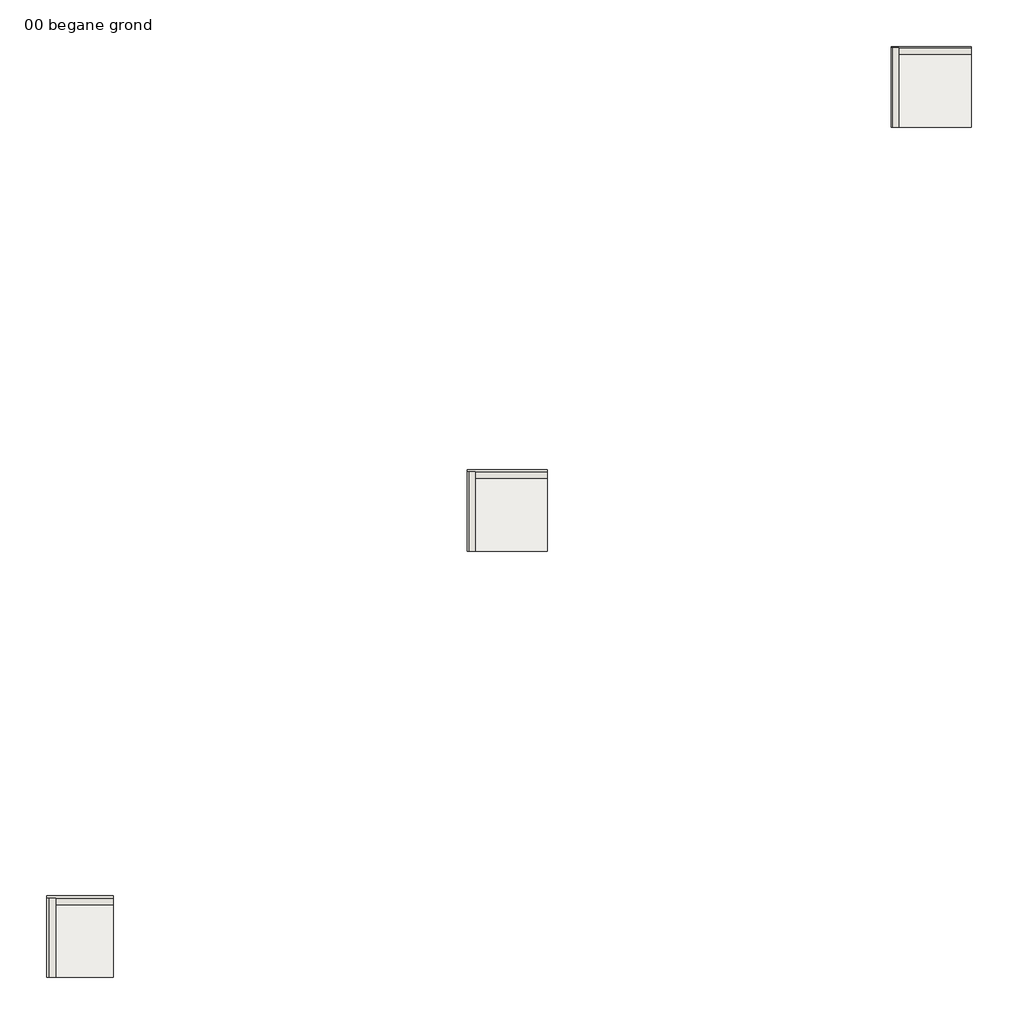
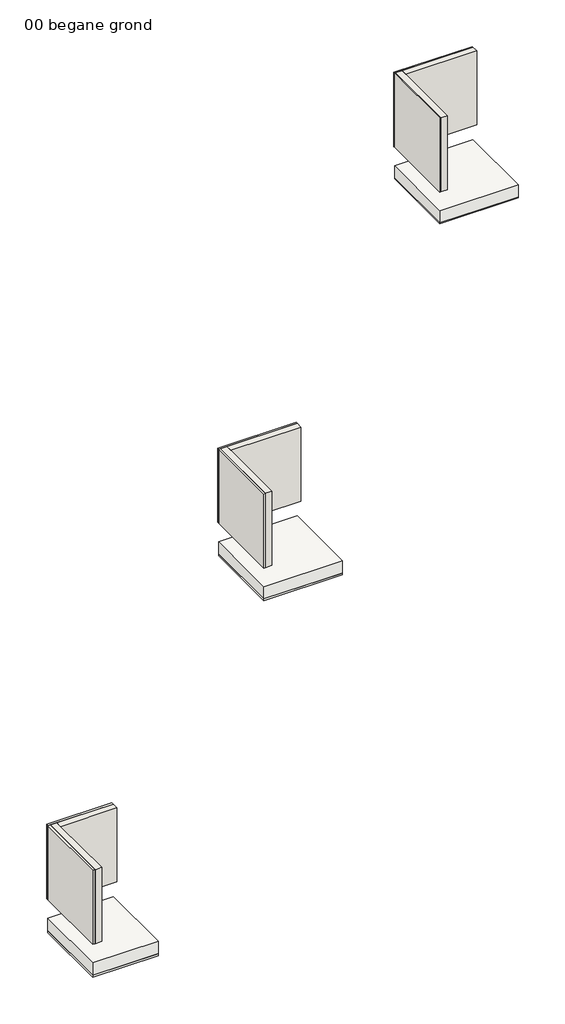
# One storey: 12 walls, 6 slabs.
"""IFC4 building model written with IfcOpenShell, lengths in millimetres."""

import ifcopenshell
import ifcopenshell.guid

model = None  # the IFC model being written
_history = None  # IfcOwnerHistory: only IFC2X3 demands one
_inside = {}  # id of a spatial element -> (the spatial element, [elements in it])
_under = {}  # id of a project, library or spatial element -> (it, [spatial elements below it])
_declared = {}  # id of a project -> (the project, [libraries it declares])
_typed = {}  # id of a type object -> (the type object, [elements of that type])
_made_of = {}  # id of a material, layer set ... -> (it, [elements and type objects made of it])


def new_model(schema):
    """Start an empty IFC model of exactly this schema.

    Asked for "IFC4X3", IfcOpenShell would pick the latest addendum, in which some entities
    have other attributes; the version numbers below select the first issue.
    IFC2X3 requires an IfcOwnerHistory on every rooted entity: one is made here for all.
    """
    global model, _history
    if schema == "IFC4X3":
        model = ifcopenshell.file(schema_version=(4, 3, 0, 0))
    else:
        model = ifcopenshell.file(schema=schema)
    _inside.clear()
    _under.clear()
    _declared.clear()
    _typed.clear()
    _made_of.clear()
    _history = None
    if model.schema == "IFC2X3":
        org = make("IfcOrganization", Name="unknown")
        user = make(
            "IfcPersonAndOrganization",
            ThePerson=make("IfcPerson", FamilyName="unknown"),
            TheOrganization=org,
        )
        app = make(
            "IfcApplication",
            ApplicationDeveloper=org,
            Version="unknown",
            ApplicationFullName="unknown",
            ApplicationIdentifier="unknown",
        )
        _history = make(
            "IfcOwnerHistory",
            OwningUser=user,
            OwningApplication=app,
            ChangeAction="ADDED",
            CreationDate=0,
        )
    return model


def make(cls, **values):
    """One entity of the class cls with the attributes given. An attribute that is None is left unset."""
    return model.create_entity(
        cls, **{name: value for name, value in values.items() if value is not None}
    )


def rooted(cls, **values):
    """An entity with a GlobalId (a new one), such as an element, a storey or a relation."""
    return make(cls, GlobalId=ifcopenshell.guid.new(), OwnerHistory=_history, **values)


def si_unit(unit_type, name, prefix=None):
    """IfcSIUnit, for example si_unit("LENGTHUNIT", "METRE", prefix="MILLI")."""
    return make("IfcSIUnit", UnitType=unit_type, Prefix=prefix, Name=name)


def assignment(units):
    """IfcUnitAssignment: the units of a project."""
    return None if units is None else make("IfcUnitAssignment", Units=units)


def point(xyz):
    """IfcCartesianPoint."""
    return None if xyz is None else make("IfcCartesianPoint", Coordinates=xyz)


def direction(xyz):
    """IfcDirection."""
    return None if xyz is None else make("IfcDirection", DirectionRatios=xyz)


def frame(location, z_axis=None, x_axis=None):
    """IfcAxis2Placement3D, a coordinate frame: its origin and axes. An axis left out is left unset."""
    return make(
        "IfcAxis2Placement3D",
        Location=point(location),
        Axis=direction(z_axis),
        RefDirection=direction(x_axis),
    )


def origin():
    """The frame at (0, 0, 0) with its axes left unset."""
    return frame((0.0, 0.0, 0.0))


def origin_with_axes():
    """The frame at (0, 0, 0) with the z axis (0, 0, 1) and the x axis (1, 0, 0) written out."""
    return frame((0.0, 0.0, 0.0), z_axis=(0.0, 0.0, 1.0), x_axis=(1.0, 0.0, 0.0))


def place(relative_to, where):
    """IfcLocalPlacement: puts the frame where relative to a parent placement (None: the world)."""
    return make(
        "IfcLocalPlacement", PlacementRelTo=relative_to, RelativePlacement=where
    )


def context(
    kind, dimensions, precision=None, world=None, true_north=None, identifier=None
):
    """IfcGeometricRepresentationContext, for example the 3D "Model" context."""
    return make(
        "IfcGeometricRepresentationContext",
        ContextIdentifier=identifier,
        ContextType=kind,
        CoordinateSpaceDimension=dimensions,
        Precision=precision,
        WorldCoordinateSystem=world,
        TrueNorth=true_north,
    )


def project(units=None, contexts=None):
    """IfcProject with its units and contexts."""
    return rooted(
        "IfcProject",
        Name="project",
        RepresentationContexts=contexts,
        UnitsInContext=assignment(units),
    )


def spatial(cls, under=None, at=None, **own):
    """A site, building, storey or space (cls), placed at a placement, below another one or the project."""
    s = rooted(cls, ObjectPlacement=at, **own)
    if under is not None:
        _under.setdefault(under.id(), (under, []))[1].append(s)
    return s


def polyline(points):
    """IfcPolyline through the points."""
    return make("IfcPolyline", Points=[point(p) for p in points])


def outline(outer, holes=None, kind="AREA"):
    """IfcArbitraryClosedProfileDef: a profile drawn as a closed curve; with holes, ...WithVoids."""
    if holes is None:
        return make("IfcArbitraryClosedProfileDef", ProfileType=kind, OuterCurve=outer)
    return make(
        "IfcArbitraryProfileDefWithVoids",
        ProfileType=kind,
        OuterCurve=outer,
        InnerCurves=holes,
    )


def extrude(swept, where, along, depth):
    """IfcExtrudedAreaSolid: the profile swept, set in the frame where, extruded along a direction by depth."""
    return make(
        "IfcExtrudedAreaSolid",
        SweptArea=swept,
        Position=where,
        ExtrudedDirection=direction(along),
        Depth=depth,
    )


def faces_of(points, faces, orient=None, outer=None):
    """IfcFace entities. A face is a list of loops; a loop is a list of indices into points, from 0.

    orient and outer hold one flag for each loop. By default every Orientation is true, the
    first loop of a face is its IfcFaceOuterBound and the others are IfcFaceBound.
    """
    made = []
    for i, loops in enumerate(faces):
        bounds = []
        for j, loop in enumerate(loops):
            is_outer = j == 0 if outer is None else outer[i][j]
            bounds.append(
                make(
                    "IfcFaceOuterBound" if is_outer else "IfcFaceBound",
                    Bound=make("IfcPolyLoop", Polygon=[points[k] for k in loop]),
                    Orientation=True if orient is None else orient[i][j],
                )
            )
        made.append(make("IfcFace", Bounds=bounds))
    return made


def faceted_brep(points, faces, orient=None, outer=None, voids=None):
    """IfcFacetedBrep: a solid bounded by flat faces; with voids (closed shells), ...WithVoids."""
    shared = [point(p) for p in points]
    hull = make("IfcClosedShell", CfsFaces=faces_of(shared, faces, orient, outer))
    if voids is None:
        return make("IfcFacetedBrep", Outer=hull)
    return make(
        "IfcFacetedBrepWithVoids",
        Outer=hull,
        Voids=[
            make(cls, CfsFaces=faces_of(shared, fs, o, b)) for cls, fs, o, b in voids
        ],
    )


def shape(context_of_items, identifier, shape_type, items):
    """IfcShapeRepresentation: the items that make up one representation, for example the "Body"."""
    return make(
        "IfcShapeRepresentation",
        ContextOfItems=context_of_items,
        RepresentationIdentifier=identifier,
        RepresentationType=shape_type,
        Items=items,
    )


def made_of(thing, what):
    """Note that an element or type object is made of a material, layer set ...; save() writes the relation."""
    if what is not None:
        _made_of.setdefault(what.id(), (what, []))[1].append(thing)
    return thing


def element(
    cls,
    number,
    at=None,
    inside=None,
    cuts=None,
    type_object=None,
    material=None,
    context=None,
    identifier="Body",
    shape_type=None,
    held_by="IfcProductDefinitionShape",
    body=None,
    shapes=None,
    **own,
):
    """One element of the class cls, such as IfcWall. Its Tag is "e" and its number.

    at: its placement. inside: the storey or other place that contains it. cuts: it is an
    opening in that element (IfcRelVoidsElement). A single representation is given by context,
    identifier, shape_type and body (its items); several are given by shapes. held_by: the class
    of the entity that holds the representations. save() writes the other relations.
    """
    e = rooted(cls, Tag="e%d" % number, ObjectPlacement=at, **own)
    if body is not None:
        shapes = [shape(context, identifier, shape_type, body)]
    if shapes is not None:
        e.Representation = make(held_by, Representations=shapes)
    if inside is not None:
        _inside.setdefault(inside.id(), (inside, []))[1].append(e)
    if cuts is not None:
        rooted(
            "IfcRelVoidsElement", RelatingBuildingElement=cuts, RelatedOpeningElement=e
        )
    if type_object is not None:
        _typed.setdefault(type_object.id(), (type_object, []))[1].append(e)
    return made_of(e, material)


def aggregate(whole, parts):
    """IfcRelAggregates: a whole, such as a stair, and the parts it consists of."""
    return rooted("IfcRelAggregates", RelatingObject=whole, RelatedObjects=parts)


def save(model, path):
    """Write the relations noted so far, then the file.

    IfcRelAggregates (storeys below a building ...), IfcRelContainedInSpatialStructure (elements
    in a storey), IfcRelDefinesByType, IfcRelAssociatesMaterial and IfcRelDeclares: one each for
    every whole, place, type object, material and project.
    """
    for whole, parts in _under.values():
        aggregate(whole, parts)
    for where, things in _inside.values():
        rooted(
            "IfcRelContainedInSpatialStructure",
            RelatedElements=things,
            RelatingStructure=where,
        )
    for kind, things in _typed.values():
        rooted("IfcRelDefinesByType", RelatedObjects=things, RelatingType=kind)
    for what, things in _made_of.values():
        rooted("IfcRelAssociatesMaterial", RelatedObjects=things, RelatingMaterial=what)
    for by, libraries in _declared.values():
        rooted("IfcRelDeclares", RelatingContext=by, RelatedDefinitions=libraries)
    model.write(path)


model = new_model("IFC4")

# Units and contexts
model_context = context("Model", 3, world=origin())
ifc_project = project(units=[si_unit("LENGTHUNIT", "METRE", prefix="MILLI")], contexts=[model_context])

# Site, building, storey
site = spatial("IfcSite", under=ifc_project)
building = spatial("IfcBuilding", under=site)
storey = spatial("IfcBuildingStorey", under=building, Name="00 begane grond", Elevation=0.0)

# Slabs
placement = place(None, origin())
element("IfcSlab", 1, ObjectType="NLRS_23_FL_Heraklith A2  afbouwpaneel 15x1200x600mm", at=placement, inside=storey, context=model_context, shape_type="SweptSolid", body=[
    extrude(outline(polyline([(13927.9220614, 13927.9220614), (13927.9220614, 12727.9220614), (12727.9220614, 12727.9220614), (12727.9220614, 13927.9220614), (13927.9220614, 13927.9220614)])), frame((0.0, 0.0, -515.0), z_axis=(0.0, 0.0, 1.0), x_axis=(1.0, 0.0, 0.0)), (0.0, 0.0, 1.0), 15.0),
])
element("IfcSlab", 2, ObjectType="NLRS_23_FL_Heraklith A2  afbouwpaneel 25x1200x600mm", at=placement, inside=storey, context=model_context, shape_type="SweptSolid", body=[
    extrude(outline(polyline([(7558.9610307, 7558.9610307), (7558.9610307, 6363.9610307), (6358.9610307, 6363.9610307), (6358.9610307, 7558.9610307), (7558.9610307, 7558.9610307)])), frame((0.0, 0.0, -525.0), z_axis=(0.0, 0.0, 1.0), x_axis=(1.0, 0.0, 0.0)), (0.0, 0.0, 1.0), 25.0),
])
element("IfcSlab", 3, ObjectType="NLRS_23_FL_Heraklith A2  afbouwpaneel 35x1000x600mm", at=placement, inside=storey, context=model_context, shape_type="SweptSolid", body=[
    extrude(outline(polyline([(1042.142118, 1152.0754727), (1042.142118, -37.9245273), (42.142118, -37.9245273), (42.142118, 1152.0754727), (1042.142118, 1152.0754727)])), frame((0.0, 0.0, -535.0), z_axis=(0.0, 0.0, 1.0), x_axis=(1.0, 0.0, 0.0)), (0.0, 0.0, 1.0), 35.0),
])
element("IfcSlab", 4, ObjectType="Generic 200mm", at=placement, inside=storey, context=model_context, shape_type="SweptSolid", body=[
    extrude(outline(polyline([(12727.9220614, 12727.9220614), (12727.9220614, 13927.9220614), (13927.9220614, 13927.9220614), (13927.9220614, 12727.9220614), (12727.9220614, 12727.9220614)])), frame((0.0, 0.0, -500.0), z_axis=(0.0, 0.0, 1.0), x_axis=(1.0, 0.0, 0.0)), (0.0, 0.0, 1.0), 200.0),
])
element("IfcSlab", 5, ObjectType="Generic 200mm", at=placement, inside=storey, context=model_context, shape_type="SweptSolid", body=[
    extrude(outline(polyline([(7558.9610307, 7558.9610307), (7558.9610307, 6363.9610307), (6358.9610307, 6363.9610307), (6358.9610307, 7558.9610307), (7558.9610307, 7558.9610307)])), frame((0.0, 0.0, -500.0), z_axis=(0.0, 0.0, 1.0), x_axis=(1.0, 0.0, 0.0)), (0.0, 0.0, 1.0), 200.0),
])
element("IfcSlab", 6, ObjectType="Generic 200mm", at=placement, inside=storey, context=model_context, shape_type="SweptSolid", body=[
    extrude(outline(polyline([(42.142118, -37.9245273), (42.142118, 1152.0754727), (1042.142118, 1152.0754727), (1042.142118, -37.9245273), (42.142118, -37.9245273)])), frame((0.0, 0.0, -500.0), z_axis=(0.0, 0.0, 1.0), x_axis=(1.0, 0.0, 0.0)), (0.0, 0.0, 1.0), 200.0),
])

# Walls
element("IfcWall", 7, ObjectType="NLRS_41_WA_Heraklith A2  afbouwpaneel 15x1200x600mm", at=placement, inside=storey, context=model_context, shape_type="Brep", body=[
    faceted_brep([(13927.9220614, 13942.9220614, 0.0), (12727.9220614, 13942.9220614, 0.0), (12727.9220614, 13942.9220614, 1200.0), (13927.9220614, 13942.9220614, 1200.0), (13927.9220614, 13927.9220614, 0.0), (13927.9220614, 13927.9220614, 1200.0), (12742.9220614, 13927.9220614, 1200.0), (12727.9220614, 13927.9220614, 1200.0), (12727.9220614, 13927.9220614, 0.0), (12742.9220614, 13927.9220614, 0.0)], [[[0, 1, 2, 3]], [[4, 5, 6, 7, 8, 9]], [[1, 0, 4, 9, 8]], [[2, 1, 8, 7]], [[3, 2, 7, 6, 5]], [[0, 3, 5, 4]]]),
])
element("IfcWall", 8, ObjectType="NLRS_42_WA_Heraklith A2  afbouwpaneel 15x1200x600mm", at=placement, inside=storey, context=model_context, shape_type="SweptSolid", body=[
    extrude(outline(polyline([(12742.9220614, 13927.9220614), (12742.9220614, 12727.9220614), (12727.9220614, 12727.9220614), (12727.9220614, 13927.9220614), (12742.9220614, 13927.9220614)])), origin_with_axes(), (0.0, 0.0, 1.0), 1200.0),
])
element("IfcWall", 9, ObjectType="NLRS_41_WA_Heraklith A2  afbouwpaneel 25x1200x600mm", at=placement, inside=storey, context=model_context, shape_type="Brep", body=[
    faceted_brep([(7558.9610307, 7583.9610307, 0.0), (6358.9610307, 7583.9610307, 0.0), (6358.9610307, 7583.9610307, 1200.0), (7558.9610307, 7583.9610307, 1200.0), (7558.9610307, 7558.9610307, 0.0), (7558.9610307, 7558.9610307, 1200.0), (6383.9610307, 7558.9610307, 1200.0), (6358.9610307, 7558.9610307, 1200.0), (6358.9610307, 7558.9610307, 0.0), (6383.9610307, 7558.9610307, 0.0)], [[[0, 1, 2, 3]], [[4, 5, 6, 7, 8, 9]], [[1, 0, 4, 9, 8]], [[2, 1, 8, 7]], [[3, 2, 7, 6, 5]], [[0, 3, 5, 4]]]),
])
element("IfcWall", 10, ObjectType="NLRS_42_WA_Heraklith A2  afbouwpaneel 25x1200x600mm", at=placement, inside=storey, context=model_context, shape_type="SweptSolid", body=[
    extrude(outline(polyline([(6383.9610307, 7558.9610307), (6383.9610307, 6363.9610307), (6358.9610307, 6363.9610307), (6358.9610307, 7558.9610307), (6383.9610307, 7558.9610307)])), origin_with_axes(), (0.0, 0.0, 1.0), 1200.0),
])
element("IfcWall", 11, ObjectType="NLRS_42_WA_Heraklith A2  afbouwpaneel 35x1000x600mm", at=placement, inside=storey, context=model_context, shape_type="SweptSolid", body=[
    extrude(outline(polyline([(77.142118, 1152.0754727), (77.142118, -37.9245273), (42.142118, -37.9245273), (42.142118, 1152.0754727), (77.142118, 1152.0754727)])), origin_with_axes(), (0.0, 0.0, 1.0), 1200.0),
])
element("IfcWall", 12, ObjectType="NLRS_41_WA_Heraklith A2  afbouwpaneel 35x1000x600mm", at=placement, inside=storey, context=model_context, shape_type="Brep", body=[
    faceted_brep([(1042.142118, 1187.0754727, 0.0), (42.142118, 1187.0754727, 0.0), (42.142118, 1187.0754727, 1200.0), (1042.142118, 1187.0754727, 1200.0), (1042.142118, 1152.0754727, 0.0), (1042.142118, 1152.0754727, 1200.0), (77.142118, 1152.0754727, 1200.0), (42.142118, 1152.0754727, 1200.0), (42.142118, 1152.0754727, 0.0), (77.142118, 1152.0754727, 0.0)], [[[0, 1, 2, 3]], [[4, 5, 6, 7, 8, 9]], [[1, 0, 4, 9, 8]], [[2, 1, 8, 7]], [[3, 2, 7, 6, 5]], [[0, 3, 5, 4]]]),
])
element("IfcWall", 13, ObjectType="Generic_100mm", at=placement, inside=storey, context=model_context, shape_type="Brep", body=[
    faceted_brep([(12842.9220614, 12727.9220614, 0.0), (12842.9220614, 13827.9220614, 0.0), (12842.9220614, 13927.9220614, 0.0), (12842.9220614, 13927.9220614, 1200.0), (12842.9220614, 13827.9220614, 1200.0), (12842.9220614, 12727.9220614, 1200.0), (12742.9220614, 12727.9220614, 0.0), (12742.9220614, 12727.9220614, 1200.0), (12742.9220614, 13927.9220614, 1200.0), (12742.9220614, 13927.9220614, 0.0)], [[[0, 1, 2, 3, 4, 5]], [[6, 7, 8, 9]], [[2, 1, 0, 6, 9]], [[5, 4, 3, 8, 7]], [[0, 5, 7, 6]], [[3, 2, 9, 8]]]),
])
element("IfcWall", 14, ObjectType="Generic_100mm", at=placement, inside=storey, context=model_context, shape_type="SweptSolid", body=[
    extrude(outline(polyline([(12842.9220614, 13927.9220614), (13927.9220614, 13927.9220614), (13927.9220614, 13827.9220614), (12842.9220614, 13827.9220614), (12842.9220614, 13927.9220614)])), origin_with_axes(), (0.0, 0.0, 1.0), 1200.0),
])
element("IfcWall", 15, ObjectType="Generic_100mm", at=placement, inside=storey, context=model_context, shape_type="Brep", body=[
    faceted_brep([(6483.9610307, 6363.9610307, 0.0), (6483.9610307, 7458.9610307, 0.0), (6483.9610307, 7558.9610307, 0.0), (6483.9610307, 7558.9610307, 1200.0), (6483.9610307, 7458.9610307, 1200.0), (6483.9610307, 6363.9610307, 1200.0), (6383.9610307, 6363.9610307, 0.0), (6383.9610307, 6363.9610307, 1200.0), (6383.9610307, 7558.9610307, 1200.0), (6383.9610307, 7558.9610307, 0.0)], [[[0, 1, 2, 3, 4, 5]], [[6, 7, 8, 9]], [[2, 1, 0, 6, 9]], [[5, 4, 3, 8, 7]], [[0, 5, 7, 6]], [[3, 2, 9, 8]]]),
])
element("IfcWall", 16, ObjectType="Generic_100mm", at=placement, inside=storey, context=model_context, shape_type="SweptSolid", body=[
    extrude(outline(polyline([(6483.9610307, 7558.9610307), (7558.9610307, 7558.9610307), (7558.9610307, 7458.9610307), (6483.9610307, 7458.9610307), (6483.9610307, 7558.9610307)])), origin_with_axes(), (0.0, 0.0, 1.0), 1200.0),
])
element("IfcWall", 17, ObjectType="Generic_100mm", at=placement, inside=storey, context=model_context, shape_type="Brep", body=[
    faceted_brep([(177.142118, -37.9245273, 0.0), (177.142118, 1052.0754727, 0.0), (177.142118, 1152.0754727, 0.0), (177.142118, 1152.0754727, 1200.0), (177.142118, 1052.0754727, 1200.0), (177.142118, -37.9245273, 1200.0), (77.142118, -37.9245273, 0.0), (77.142118, -37.9245273, 1200.0), (77.142118, 1152.0754727, 1200.0), (77.142118, 1152.0754727, 0.0)], [[[0, 1, 2, 3, 4, 5]], [[6, 7, 8, 9]], [[2, 1, 0, 6, 9]], [[5, 4, 3, 8, 7]], [[0, 5, 7, 6]], [[3, 2, 9, 8]]]),
])
element("IfcWall", 18, ObjectType="Generic_100mm", at=placement, inside=storey, context=model_context, shape_type="SweptSolid", body=[
    extrude(outline(polyline([(177.142118, 1152.0754727), (1042.142118, 1152.0754727), (1042.142118, 1052.0754727), (177.142118, 1052.0754727), (177.142118, 1152.0754727)])), origin_with_axes(), (0.0, 0.0, 1.0), 1200.0),
])

save(model, "model.ifc")
